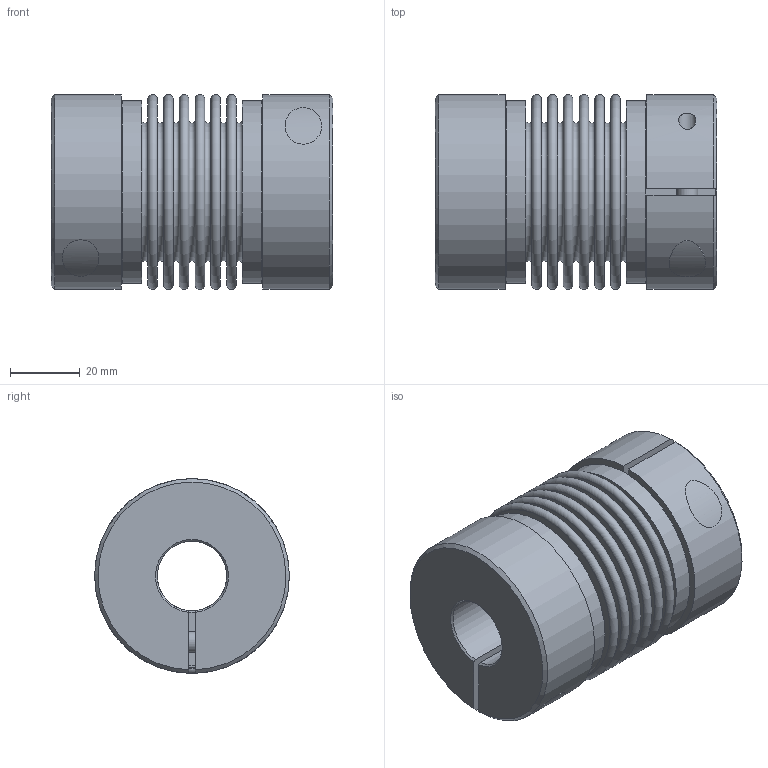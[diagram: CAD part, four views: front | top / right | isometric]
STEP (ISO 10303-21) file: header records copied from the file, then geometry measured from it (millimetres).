
FILE_DESCRIPTION(/* description */ ('Unknown'),/* implementation_level */ '2;1');
FILE_NAME(/* name */ 'KM 20 - 81',/* time_stamp */ '2020-04-30T14:11:16+03:00',/* author */ ('Unknown'),/* organization */ ('Unknown'),/* preprocessor_version */ 'ST-DEVELOPER v16.7',/* originating_system */ 'DEX',/* authorisation */ $);
FILE_SCHEMA (('AUTOMOTIVE_DESIGN {1 0 10303 214 3 1 1}'));
Length unit declared in the file: millimetre
Products named in the file (1): KM 20  81
Bounding box: 81 x 56 x 56 mm (x, y, z)
Volume: 112415.7 mm3; surface area: 59745.8 mm2
Topology: 1 solids, 3 shells, 132 faces, 261 edges, 169 vertices
Faces by surface type: plane 72, torus 28, cylinder 24, cone 8
Full cylindrical faces by diameter (mm): 5 x2, 6 x2, 6.4 x2, 10 x2, 10.5 x2, 52.6 x2
Entity records: 3264 total; most frequent: CARTESIAN_POINT 631, DIRECTION 582, ORIENTED_EDGE 416, AXIS2_PLACEMENT_3D 249, FACE_BOUND 216, EDGE_LOOP 214, EDGE_CURVE 208, VERTEX_POINT 160
